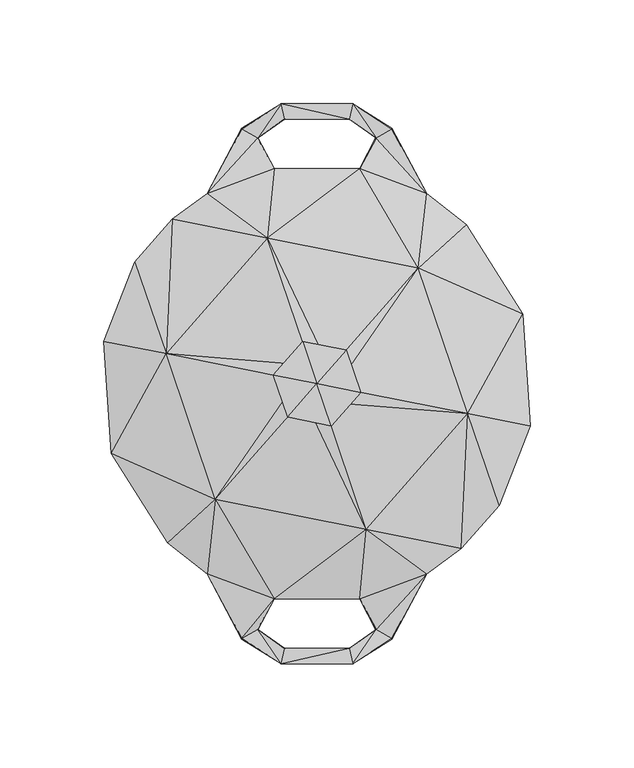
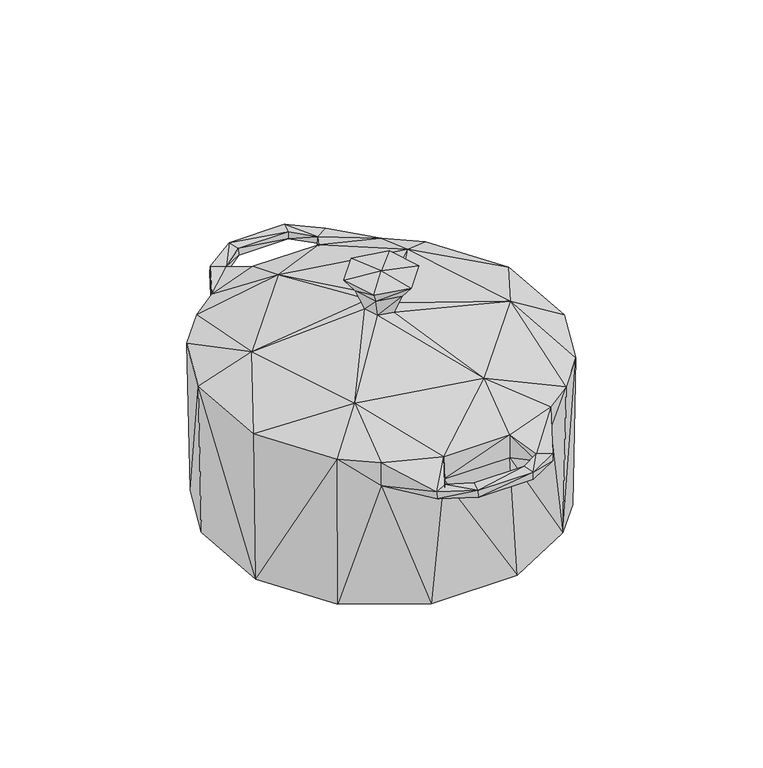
"""IFC4 building model written with IfcOpenShell, lengths in millimetres: geographic element geometry, Enscape AssetDefinition - Stew Pot : Enscape AssetDefinition - Stew Pot."""

from ifc_helpers import new_model, si_unit, origin, place, context, project, spatial, faceted_brep, source, transform, mapped, element, save


def geographic_element_5fc2b1cc(model_context):
    return source(origin(), model_context, "Body", "Brep", [
        faceted_brep([(72.7186278, -14.4650741, 113.1260693), (102.7547568, -20.4396732, 97.1209779), (99.2076695, 33.6773954, 97.1209779), (87.863408, -58.7089546, 97.1209779), (86.3204822, -57.6777495, 0.000971), (100.9506211, -20.0804025, 0.000971), (69.6745217, -79.4486701, 97.1209779), (68.4510544, -78.0543014, 0.000971), (20.615425, -103.6422551, 82.0033848), (26.9347318, -100.5233824, 0.0), (52.9508889, -91.7134434, 82.0033848), (-26.9347318, -100.5233824, 0.0), (23.8323677, -70.2085793, 113.1260693), (52.9508889, -91.7134434, 97.1209779), (36.1864753, -122.8739917, 90.9230486), (36.1719094, -123.2750118, 86.4573941), (28.4407604, -118.7763512, 86.1719176), (20.615425, -103.6422551, 97.1209779), (28.5116453, -118.3860004, 90.6433985), (17.1654411, -135.0387484, 92.6135704), (17.0285292, -135.0824535, 88.1275237), (15.5827021, -127.7154237, 92.6135704), (-17.1654411, -135.0387484, 92.6135704), (-17.0285292, -135.0824535, 88.1275237), (15.425398, -127.7494133, 88.1284922), (-15.5827021, -127.7154237, 92.6135704), (-15.425398, -127.7494133, 88.1284922), (-28.4407604, -118.7763512, 86.1719176), (-36.1719094, -123.2750118, 86.4573941), (-28.5116453, -118.3860004, 90.6433985), (-20.615425, -103.6422551, 97.1209779), (-36.1864753, -122.8739917, 90.9230486), (-52.9508889, -91.7134434, 82.0033848), (-20.615425, -103.6422551, 82.0033848), (-52.9508889, -91.7134434, 97.1209779), (-71.9573647, -76.8444315, 97.1209779), (-70.6940815, -75.495705, 0.000971), (-48.8862582, -55.7435043, 113.1260693), (-99.2076695, -33.6773954, 97.1209779), (-97.465679, -33.086054, 0.000971), (3.0033211, -8.8487761, 126.7531663), (-6.1610322, -7.0252274, 126.7531663), (9.1653243, -1.822578, 126.7531663), (14.74181, -2.9324375, 140.0870085), (4.8317253, -14.2330043, 140.0870085), (48.8862582, 55.7435043, 113.1260693), (6.1610322, 7.0252274, 126.7531663), (9.9100852, 11.3005666, 140.0870085), (14.1718313, 16.1594804, 148.3570635), (21.0805368, -4.1928035, 148.3570635), (-4.8317253, 14.2330043, 140.0870085), (-6.9087064, 20.3522816, 148.3570635), (-23.8323677, 70.2085793, 113.1260693), (-3.0033211, 8.8487761, 126.7531663), (-14.74181, 2.9324375, 140.0870085), (-21.0805368, 4.1928035, 148.3570635), (0.0, 0.0, 150.000006), (6.9087064, -20.3522816, 148.3570635), (-14.1718313, -16.1594804, 148.3570635), (-9.1653243, 1.822578, 126.7531663), (-9.9100852, -11.3005666, 140.0870085), (-72.7186278, 14.4650741, 113.1260693), (-102.7547568, 20.4396732, 97.1209779), (-87.863408, 58.7089546, 97.1209779), (-100.9506211, 20.0804025, 0.000971), (-86.3204822, 57.6777495, 0.000971), (-26.9347318, 100.5233824, 0.0), (-68.4510544, 78.0543014, 0.000971), (-69.6745217, 79.4486701, 97.1209779), (-20.615425, 103.6422551, 82.0033848), (-52.9508889, 91.7134434, 82.0033848), (-52.9508889, 91.7134434, 97.1209779), (-36.1864753, 122.8739917, 90.9230486), (-36.1719094, 123.2750118, 86.4573941), (-28.4407604, 118.7763512, 86.1719176), (-20.615425, 103.6422551, 97.1209779), (-28.5116453, 118.3860004, 90.6433985), (-17.1654411, 135.0387484, 92.6135704), (-17.0285292, 135.0824535, 88.1275237), (15.5827021, 127.7154237, 92.6135704), (17.1654411, 135.0387484, 92.6135704), (-15.5827021, 127.7154237, 92.6135704), (-15.425398, 127.7494133, 88.1284922), (15.425398, 127.7494133, 88.1284922), (28.5116453, 118.3860004, 90.6433985), (17.0285292, 135.0824535, 88.1275237), (28.4407604, 118.7763512, 86.1719176), (36.1719094, 123.2750118, 86.4573941), (52.9508889, 91.7134434, 82.0033848), (20.615425, 103.6422551, 82.0033848), (20.615425, 103.6422551, 97.1209779), (36.1864753, 122.8739917, 90.9230486), (52.9508889, 91.7134434, 97.1209779), (71.9573647, 76.8444315, 97.1209779), (97.465679, 33.086054, 0.000971), (70.6940815, 75.495705, 0.000971), (26.9347318, 100.5233824, 0.0)], [[[0, 1, 2]], [[0, 3, 1]], [[1, 4, 5]], [[4, 1, 3]], [[5, 2, 1]], [[0, 6, 3]], [[3, 7, 4]], [[7, 3, 6]], [[7, 5, 4]], [[7, 8, 9]], [[8, 7, 10]], [[7, 6, 10]], [[11, 7, 9]], [[11, 5, 7]], [[6, 0, 12]], [[12, 13, 6]], [[6, 13, 10]], [[10, 14, 15]], [[14, 10, 13]], [[16, 10, 15]], [[10, 16, 8]], [[17, 13, 12]], [[18, 13, 17]], [[13, 18, 14]], [[18, 19, 14]], [[19, 15, 14]], [[20, 16, 15]], [[15, 19, 20]], [[21, 22, 19]], [[19, 23, 20]], [[23, 19, 22]], [[19, 18, 21]], [[17, 16, 18]], [[24, 18, 16]], [[18, 24, 21]], [[22, 21, 25]], [[24, 25, 21]], [[24, 23, 26]], [[23, 24, 20]], [[25, 24, 26]], [[16, 20, 24]], [[27, 23, 28]], [[23, 27, 26]], [[22, 28, 23]], [[29, 26, 27]], [[26, 29, 25]], [[29, 22, 25]], [[30, 31, 29]], [[27, 30, 29]], [[22, 29, 31]], [[27, 32, 33]], [[32, 27, 28]], [[30, 27, 33]], [[31, 32, 28]], [[28, 22, 31]], [[31, 30, 34]], [[32, 31, 34]], [[32, 35, 36]], [[35, 32, 34]], [[11, 32, 36]], [[32, 11, 33]], [[37, 35, 34]], [[37, 34, 30]], [[37, 38, 35]], [[35, 39, 36]], [[39, 35, 38]], [[39, 11, 36]], [[9, 33, 11]], [[39, 5, 11]], [[33, 9, 8]], [[17, 33, 8]], [[16, 17, 8]], [[30, 17, 12]], [[33, 17, 30]], [[37, 30, 12]], [[0, 40, 12]], [[41, 12, 40]], [[12, 41, 37]], [[40, 0, 42]], [[43, 40, 42]], [[40, 43, 44]], [[44, 41, 40]], [[0, 2, 45]], [[45, 42, 0]], [[42, 45, 46]], [[47, 42, 46]], [[42, 47, 43]], [[48, 43, 47]], [[43, 48, 49]], [[49, 44, 43]], [[46, 50, 47]], [[51, 47, 50]], [[47, 51, 48]], [[46, 52, 53]], [[52, 46, 45]], [[50, 46, 53]], [[53, 54, 50]], [[55, 50, 54]], [[50, 55, 51]], [[56, 51, 55]], [[56, 48, 51]], [[56, 49, 48]], [[44, 49, 57]], [[56, 57, 49]], [[56, 58, 57]], [[56, 55, 58]], [[54, 58, 55]], [[54, 53, 59]], [[59, 60, 54]], [[58, 54, 60]], [[60, 57, 58]], [[57, 60, 44]], [[41, 44, 60]], [[60, 59, 41]], [[53, 61, 59]], [[59, 37, 41]], [[37, 59, 61]], [[61, 38, 37]], [[61, 62, 38]], [[62, 39, 38]], [[61, 63, 62]], [[39, 62, 64]], [[62, 65, 64]], [[65, 62, 63]], [[39, 64, 65]], [[39, 66, 5]], [[39, 65, 66]], [[63, 67, 65]], [[66, 65, 67]], [[61, 68, 63]], [[67, 63, 68]], [[67, 69, 66]], [[69, 67, 70]], [[67, 68, 70]], [[68, 61, 52]], [[52, 71, 68]], [[68, 71, 70]], [[70, 72, 73]], [[72, 70, 71]], [[74, 70, 73]], [[70, 74, 69]], [[75, 71, 52]], [[76, 71, 75]], [[71, 76, 72]], [[76, 77, 72]], [[77, 73, 72]], [[78, 74, 73]], [[73, 77, 78]], [[77, 79, 80]], [[79, 77, 81]], [[77, 76, 81]], [[80, 78, 77]], [[75, 74, 76]], [[82, 76, 74]], [[76, 82, 81]], [[83, 81, 82]], [[81, 83, 79]], [[84, 80, 79]], [[83, 84, 79]], [[83, 78, 85]], [[78, 83, 82]], [[85, 86, 83]], [[84, 83, 86]], [[74, 78, 82]], [[78, 80, 85]], [[86, 85, 87]], [[80, 87, 85]], [[86, 88, 89]], [[88, 86, 87]], [[86, 90, 84]], [[90, 86, 89]], [[91, 88, 87]], [[87, 80, 91]], [[84, 92, 91]], [[88, 91, 92]], [[80, 84, 91]], [[45, 93, 92]], [[45, 92, 90]], [[88, 92, 93]], [[92, 84, 90]], [[45, 2, 93]], [[93, 94, 95]], [[94, 93, 2]], [[88, 93, 95]], [[45, 90, 52]], [[52, 90, 75]], [[61, 53, 52]], [[75, 89, 69]], [[89, 75, 90]], [[74, 75, 69]], [[88, 96, 89]], [[89, 66, 69]], [[66, 89, 96]], [[96, 88, 95]], [[95, 66, 96]], [[5, 66, 95]], [[2, 5, 94]], [[5, 95, 94]]]),
    ])


if __name__ == "__main__":
    model = new_model("IFC4")
    model_context = context("Model", 3, world=origin())
    ifc_project = project(units=[si_unit("LENGTHUNIT", "METRE", prefix="MILLI")], contexts=[model_context])
    site = spatial("IfcSite", under=ifc_project)
    building = spatial("IfcBuilding", under=site)
    placement = place(None, origin())
    geographic_element_shape = geographic_element_5fc2b1cc(model_context)
    element("IfcGeographicElement", 1, ObjectType="Enscape AssetDefinition - Stew Pot : Enscape AssetDefinition - Stew Pot", at=placement, inside=building, context=model_context, shape_type="MappedRepresentation", body=[
        mapped(geographic_element_shape, transform((0.0, 0.0, 0.0), x_axis=(1.0, 0.0, 0.0), y_axis=(0.0, 1.0, 0.0), z_axis=(0.0, 0.0, 1.0))),
    ])
    save(model, "model.ifc")
